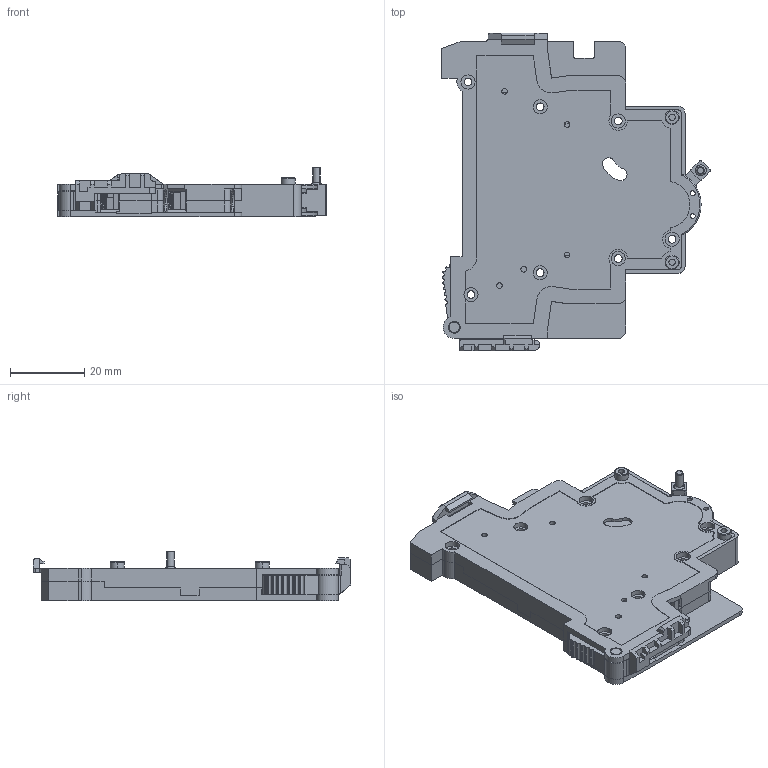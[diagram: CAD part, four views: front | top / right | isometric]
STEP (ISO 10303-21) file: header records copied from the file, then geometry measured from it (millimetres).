
FILE_DESCRIPTION (( 'STEP AP214' ), '1' );
FILE_NAME ('OptiDin ﾂﾌ63 ﾌﾑﾊ2.STEP', '2022-11-29T05:58:14', ( '' ), ( '' ), 'SwSTEP 2.0', 'SolidWorks 2018', '' );
FILE_SCHEMA (( 'AUTOMOTIVE_DESIGN' ));
Length unit declared in the file: millimetre
Products named in the file (8): OptiDin ﾂﾌ63 ﾌﾑﾊ2; Áîêîâèíà ïðàâàÿ ÃÆÈÊ.735224.109 (ïóñòàÿ); Áîêîâèíà ëåâàÿ ÃÆÈÊ.735224.110 (ïóñòàÿ); Êîëîäêà ÃÆÈÊ.745418.020; ﾂ鏆鮏 ﾌﾑﾊ; 妈眚 闷仁.758151.071; Ðó÷êà ÃÆÈÊ.753725.013_¨§¬ 1; Çàùåëêà ÃÆÈÊ.741358.036_¨§¬.1   08 ¨î­ï 2017
Assembly tree (16 placements, depth 2):
  OptiDin ﾂﾌ63 ﾌﾑﾊ2
    Áîêîâèíà ëåâàÿ ÃÆÈÊ.735224.110 (ïóñòàÿ)
    Ðó÷êà ÃÆÈÊ.753725.013_¨§¬ 1
    Áîêîâèíà ïðàâàÿ ÃÆÈÊ.735224.109 (ïóñòàÿ)
    Çàùåëêà ÃÆÈÊ.741358.036_¨§¬.1   08 ¨î­ï 2017
    妈眚 闷仁.758151.071  x4
    ﾂ鏆鮏 ﾌﾑﾊ  x4
    Êîëîäêà ÃÆÈÊ.745418.020  x4
Bounding box: 72.3 x 85.4 x 13.45 mm (x, y, z)
Volume: 15665.1 mm3; surface area: 30433.1 mm2
Topology: 16 solids, 16 shells, 1858 faces, 5004 edges, 3240 vertices
Faces by surface type: plane 1227, cylinder 531, torus 42, bspline 32, cone 26
Entity records: 43107 total; most frequent: CARTESIAN_POINT 7959, ORIENTED_EDGE 7362, DIRECTION 7219, EDGE_CURVE 3681, VECTOR 2603, LINE 2603, VERTEX_POINT 2412, AXIS2_PLACEMENT_3D 2308
